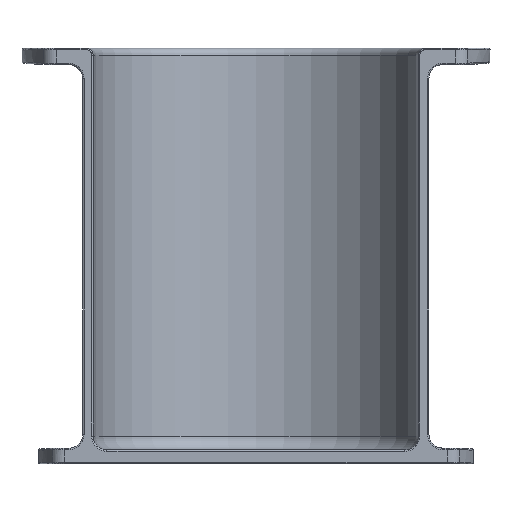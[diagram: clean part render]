
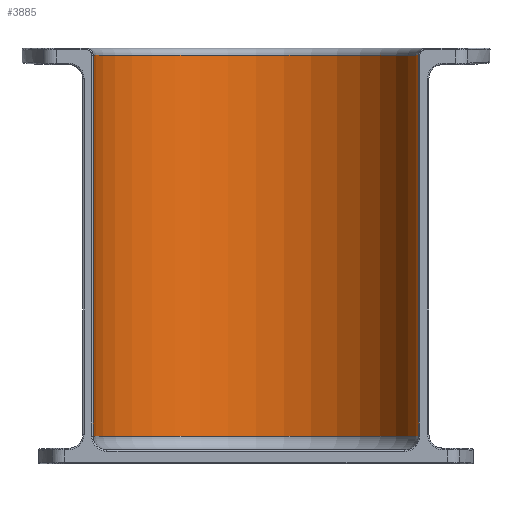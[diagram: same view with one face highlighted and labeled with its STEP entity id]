
A CAD part, front view. The second image highlights one B-rep face of the part: STEP entity #3885.
In plain terms, the highlighted cylindrical face has radius 29.845 mm (diameter 59.69 mm), a partial arc.
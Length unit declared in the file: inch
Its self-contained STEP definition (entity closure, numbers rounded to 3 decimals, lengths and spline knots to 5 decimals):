
#895=CARTESIAN_POINT('',(-1.17496,0.00992,2.95));
#916=DIRECTION('',(0.,0.,-1.));
#917=VECTOR('',#916,2.75);
#918=CARTESIAN_POINT('',(-1.17496,0.00992,2.95));
#919=LINE('',#918,#917);
#920=CARTESIAN_POINT('',(0.,0.,2.95));
#921=DIRECTION('',(0.,0.,-1.));
#922=DIRECTION('',(-1.,0.008,0.));
#923=AXIS2_PLACEMENT_3D('',#920,#921,#922);
#925=DIRECTION('',(0.,0.,1.));
#926=VECTOR('',#925,2.75);
#927=CARTESIAN_POINT('',(1.17496,0.00992,0.2));
#928=LINE('',#927,#926);
#929=CARTESIAN_POINT('',(0.,0.,0.2));
#930=DIRECTION('',(0.,0.,-1.));
#931=DIRECTION('',(-1.,0.008,0.));
#932=AXIS2_PLACEMENT_3D('',#929,#930,#931);
#964=CARTESIAN_POINT('',(1.17496,0.00992,0.2));
#2193=VERTEX_POINT('',#895);
#2195=CARTESIAN_POINT('',(-1.17496,0.00992,
0.2));
#2196=VERTEX_POINT('',#2195);
#2205=VERTEX_POINT('',#964);
#2207=CARTESIAN_POINT('',(1.17496,0.00992,2.95));
#2208=VERTEX_POINT('',#2207);
#3872=CARTESIAN_POINT('',(0.,0.,3.));
#3873=DIRECTION('',(0.,0.,1.));
#3874=DIRECTION('',(1.,0.,0.));
#3875=AXIS2_PLACEMENT_3D('',#3872,#3873,#3874);
#3876=CYLINDRICAL_SURFACE('',#3875,1.175);
#3877=ORIENTED_EDGE('',*,*,#3863,.F.);
#3878=ORIENTED_EDGE('',*,*,#3808,.T.);
#3880=ORIENTED_EDGE('',*,*,#3879,.F.);
#3882=ORIENTED_EDGE('',*,*,#3881,.F.);
#3883=EDGE_LOOP('',(#3877,#3878,#3880,#3882));
#3884=FACE_OUTER_BOUND('',#3883,.F.);
#3885=ADVANCED_FACE('',(#3884),#3876,.F.);
#924=CIRCLE('',#923,1.175);
#933=CIRCLE('',#932,1.175);
#3808=EDGE_CURVE('',#2193,#2208,#924,.T.);
#3863=EDGE_CURVE('',#2193,#2196,#919,.T.);
#3879=EDGE_CURVE('',#2205,#2208,#928,.T.);
#3881=EDGE_CURVE('',#2196,#2205,#933,.T.);
